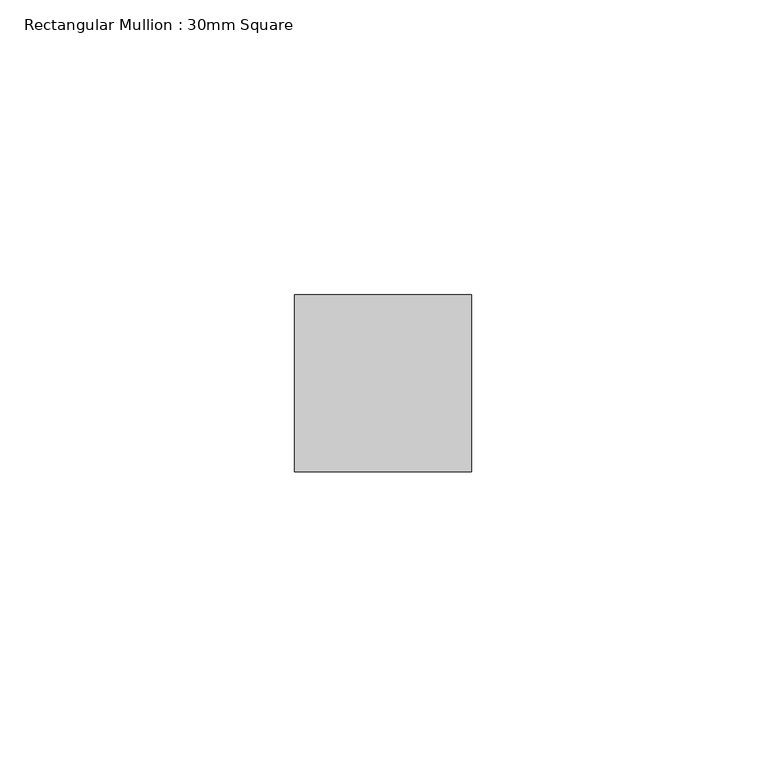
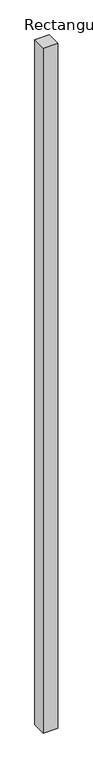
"""IFC4 building model written with IfcOpenShell, lengths in millimetres: member geometry, Rectangular Mullion : 30mm Square."""

from ifc_helpers import new_model, si_unit, frame, origin, place, context, project, spatial, polyline, outline, extrude, source, transform, mapped, element, save


def rectangular_mullion_30mm_square_427ff21f(model_context):
    return source(origin(), model_context, "Body", "SweptSolid", [
        extrude(outline(polyline([(0.0, 15.0), (0.0, -15.0), (-30.0, -15.0), (-30.0, 15.0), (0.0, 15.0)])), frame((0.0, 0.0, -1493.077283), z_axis=(0.0, 0.0, 1.0), x_axis=(1.0, 0.0, 0.0)), (0.0, 0.0, 1.0), 1493.077283),
    ])


if __name__ == "__main__":
    model = new_model("IFC4")
    model_context = context("Model", 3, world=origin())
    ifc_project = project(units=[si_unit("LENGTHUNIT", "METRE", prefix="MILLI")], contexts=[model_context])
    site = spatial("IfcSite", under=ifc_project)
    building = spatial("IfcBuilding", under=site)
    placement = place(None, origin())
    rectangular_mullion_30mm_square_shape = rectangular_mullion_30mm_square_427ff21f(model_context)
    element("IfcMember", 1, ObjectType="Rectangular Mullion : 30mm Square", at=placement, inside=building, context=model_context, shape_type="MappedRepresentation", body=[
        mapped(rectangular_mullion_30mm_square_shape, transform((0.0, 0.0, 0.0), x_axis=(1.0, 0.0, 0.0), y_axis=(0.0, 1.0, 0.0), z_axis=(0.0, 0.0, 1.0))),
    ])
    save(model, "model.ifc")
